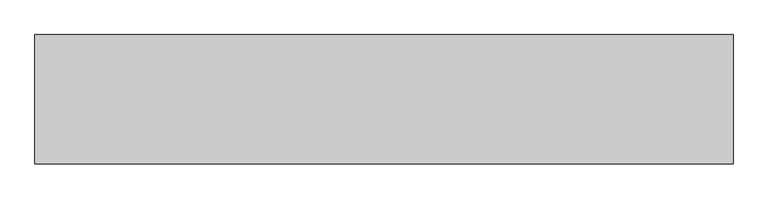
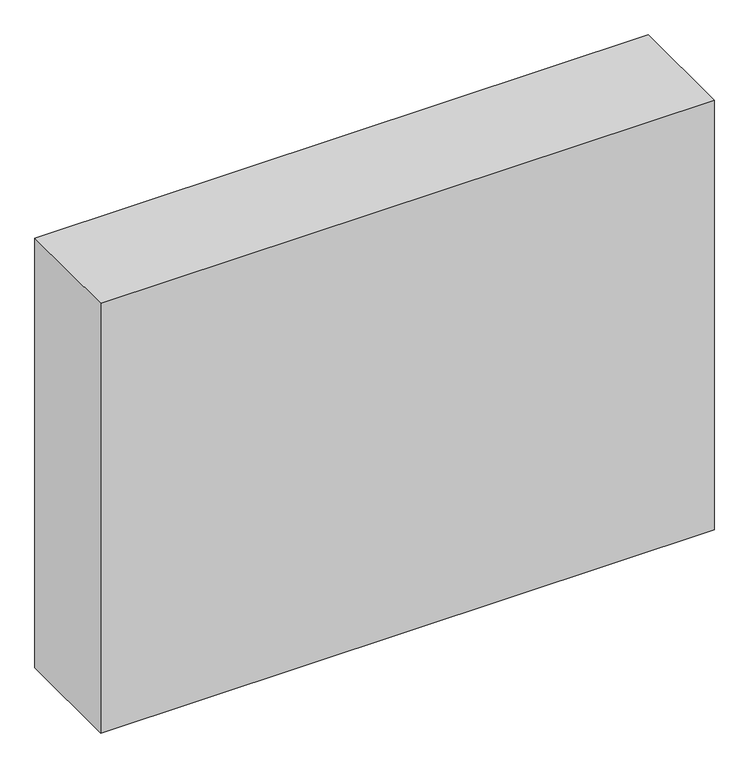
"""IFC4 building model written with IfcOpenShell, lengths in millimetres: furniture geometry, Fu_шкаф 1-с : Шкаф 1-створчатый."""

from ifc_helpers import new_model, si_unit, origin, origin_with_axes, place, context, project, spatial, polyline, outline, extrude, source, transform, mapped, element, save


def furniture_8983fd5d(model_context):
    return source(origin(), model_context, "Body", "SweptSolid", [
        extrude(outline(polyline([(1620.0, 0.0), (0.0, 0.0), (0.0, 300.0), (1620.0, 300.0), (1620.0, 0.0)])), origin_with_axes(), (0.0, 0.0, 1.0), 1200.0),
    ])


if __name__ == "__main__":
    model = new_model("IFC4")
    model_context = context("Model", 3, world=origin())
    ifc_project = project(units=[si_unit("LENGTHUNIT", "METRE", prefix="MILLI")], contexts=[model_context])
    site = spatial("IfcSite", under=ifc_project)
    building = spatial("IfcBuilding", under=site)
    placement = place(None, origin())
    furniture_shape = furniture_8983fd5d(model_context)
    element("IfcFurniture", 1, ObjectType="Fu_шкаф 1-с : Шкаф 1-створчатый", at=placement, inside=building, context=model_context, shape_type="MappedRepresentation", body=[
        mapped(furniture_shape, transform((0.0, 0.0, 0.0), x_axis=(1.0, 0.0, 0.0), y_axis=(0.0, 1.0, 0.0), z_axis=(0.0, 0.0, 1.0))),
    ])
    save(model, "model.ifc")
